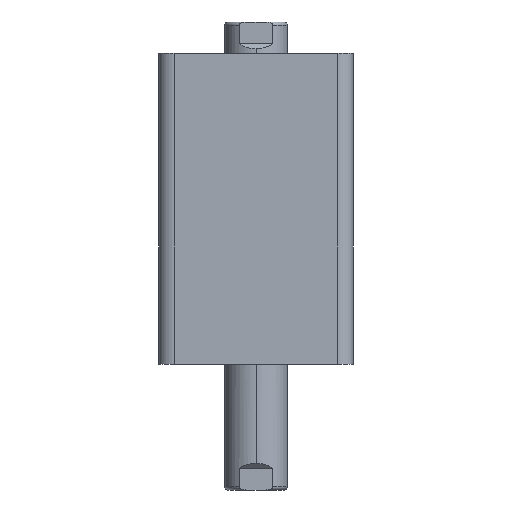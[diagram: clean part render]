
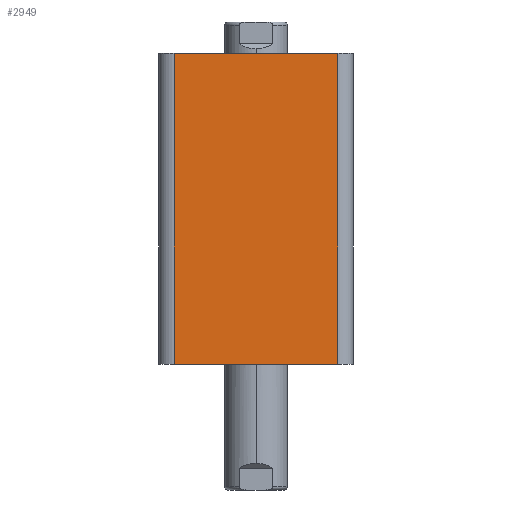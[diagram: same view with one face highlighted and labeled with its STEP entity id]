
A CAD part, left-side view. The second image highlights one B-rep face of the part: STEP entity #2949.
In plain terms, the highlighted planar face has unit normal (-1, 0, 0).
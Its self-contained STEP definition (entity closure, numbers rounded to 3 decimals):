
#397 = EDGE_CURVE ( 'NONE', #2459, #2458, #3237, .T. ) ;
#398 = EDGE_CURVE ( 'NONE', #2458, #2453, #3233, .T. ) ;
#399 = EDGE_CURVE ( 'NONE', #2454, #2453, #3241, .T. ) ;
#400 = EDGE_CURVE ( 'NONE', #2454, #2459, #3243, .T. ) ;
#705 = EDGE_LOOP ( 'NONE', ( #1259, #1260, #1261, #1262 ) ) ;
#753 = CARTESIAN_POINT ( 'NONE',  ( -31., 26., 99. ) ) ;
#755 = CARTESIAN_POINT ( 'NONE',  ( -31., -26., 0. ) ) ;
#756 = CARTESIAN_POINT ( 'NONE',  ( -31., 26., 0. ) ) ;
#811 = CARTESIAN_POINT ( 'NONE',  ( -31., 31., 99. ) ) ;
#819 = PLANE ( 'NONE',  #1093 ) ;
#821 = DIRECTION ( 'NONE',  ( 1., 0., 0. ) ) ;
#822 = DIRECTION ( 'NONE',  ( 0., 1., 0. ) ) ;
#1093 = AXIS2_PLACEMENT_3D ( 'NONE', #811, #821, #822 ) ;
#1259 = ORIENTED_EDGE ( 'NONE', *, *, #397, .T. ) ;
#1260 = ORIENTED_EDGE ( 'NONE', *, *, #398, .T. ) ;
#1261 = ORIENTED_EDGE ( 'NONE', *, *, #399, .F. ) ;
#1262 = ORIENTED_EDGE ( 'NONE', *, *, #400, .T. ) ;
#1623 = FACE_OUTER_BOUND ( 'NONE', #705, .T. ) ;
#2453 = VERTEX_POINT ( 'NONE', #2870 ) ;
#2454 = VERTEX_POINT ( 'NONE', #753 ) ;
#2458 = VERTEX_POINT ( 'NONE', #755 ) ;
#2459 = VERTEX_POINT ( 'NONE', #756 ) ;
#2778 = CARTESIAN_POINT ( 'NONE',  ( -31., -26., 99. ) ) ;
#2792 = CARTESIAN_POINT ( 'NONE',  ( -31., 31., 0. ) ) ;
#2793 = DIRECTION ( 'NONE',  ( 0., -1., 0. ) ) ;
#2794 = DIRECTION ( 'NONE',  ( 0., 0., 1. ) ) ;
#2795 = CARTESIAN_POINT ( 'NONE',  ( -31., 31., 99. ) ) ;
#2796 = DIRECTION ( 'NONE',  ( 0., -1., 0. ) ) ;
#2797 = CARTESIAN_POINT ( 'NONE',  ( -31., 26., 99. ) ) ;
#2798 = DIRECTION ( 'NONE',  ( 0., 0., -1. ) ) ;
#2870 = CARTESIAN_POINT ( 'NONE',  ( -31., -26., 99. ) ) ;
#2949 = ADVANCED_FACE ( 'NONE', ( #1623 ), #819, .F. ) ;
#3233 = LINE ( 'NONE', #2778, #3242 ) ;
#3237 = LINE ( 'NONE', #2792, #3240 ) ;
#3240 = VECTOR ( 'NONE', #2793, 1000. ) ;
#3241 = LINE ( 'NONE', #2795, #3244 ) ;
#3242 = VECTOR ( 'NONE', #2794, 1000. ) ;
#3243 = LINE ( 'NONE', #2797, #3246 ) ;
#3244 = VECTOR ( 'NONE', #2796, 1000. ) ;
#3246 = VECTOR ( 'NONE', #2798, 1000. ) ;
